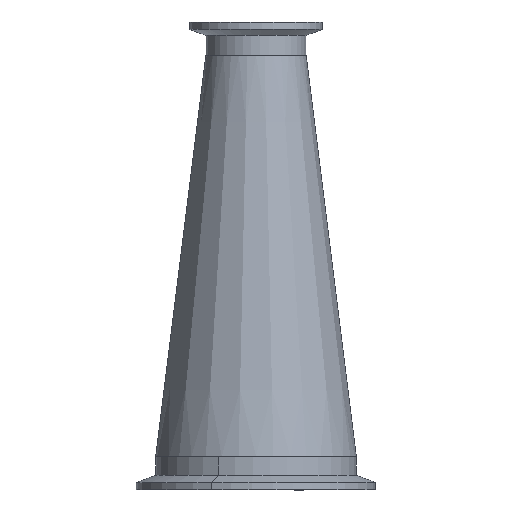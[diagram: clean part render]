
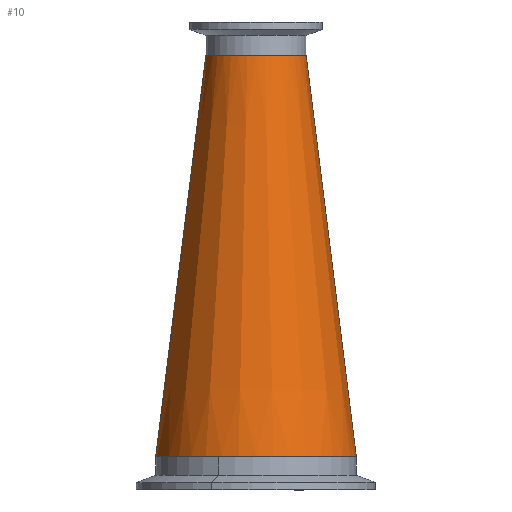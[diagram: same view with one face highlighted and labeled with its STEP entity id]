
A CAD part, front view. The second image highlights one B-rep face of the part: STEP entity #10.
In plain terms, the highlighted conical face has half-angle 7.125 degrees and reference radius 38.1 mm.
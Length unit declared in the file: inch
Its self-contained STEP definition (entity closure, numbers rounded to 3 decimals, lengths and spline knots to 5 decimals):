
#10 = ADVANCED_FACE ( 'NONE', ( #486 ), #615, .T. ) ;
#99 = DIRECTION ( 'NONE',  ( 1., 0., 0. ) ) ;
#119 = DIRECTION ( 'NONE',  ( 0., 0., -1. ) ) ;
#187 = VERTEX_POINT ( 'NONE', #896 ) ;
#199 = EDGE_CURVE ( 'NONE', #823, #187, #749, .T. ) ;
#209 = DIRECTION ( 'NONE',  ( 0., 0., 1. ) ) ;
#218 = DIRECTION ( 'NONE',  ( 0., 0., 1. ) ) ;
#232 = CARTESIAN_POINT ( 'NONE',  ( 0., 0., -6. ) ) ;
#273 = DIRECTION ( 'NONE',  ( 0.124, 0., -0.992 ) ) ;
#290 = VECTOR ( 'NONE', #273, 39.37008 ) ;
#306 = ORIENTED_EDGE ( 'NONE', *, *, #753, .F. ) ;
#355 = DIRECTION ( 'NONE',  ( -1., 0., 0. ) ) ;
#406 = EDGE_CURVE ( 'NONE', #1342, #1512, #1209, .T. ) ;
#486 = FACE_OUTER_BOUND ( 'NONE', #1196, .T. ) ;
#540 = CIRCLE ( 'NONE', #1500, 0.75 ) ;
#579 = AXIS2_PLACEMENT_3D ( 'NONE', #959, #218, #99 ) ;
#599 = CARTESIAN_POINT ( 'NONE',  ( -1.5, 0., -6. ) ) ;
#615 = CONICAL_SURFACE ( 'NONE', #1073, 1.5, 0.124 ) ;
#655 = CARTESIAN_POINT ( 'NONE',  ( 1.5, 0., -6. ) ) ;
#684 = VECTOR ( 'NONE', #1565, 39.37008 ) ;
#727 = DIRECTION ( 'NONE',  ( 1., 0., 0. ) ) ;
#749 = LINE ( 'NONE', #655, #290 ) ;
#753 = EDGE_CURVE ( 'NONE', #1342, #823, #540, .T. ) ;
#823 = VERTEX_POINT ( 'NONE', #867 ) ;
#866 = CIRCLE ( 'NONE', #579, 1.5 ) ;
#867 = CARTESIAN_POINT ( 'NONE',  ( 0.75, 0., 0. ) ) ;
#896 = CARTESIAN_POINT ( 'NONE',  ( 1.5, 0., -6. ) ) ;
#936 = EDGE_CURVE ( 'NONE', #1512, #187, #866, .T. ) ;
#959 = CARTESIAN_POINT ( 'NONE',  ( 0., 0., -6. ) ) ;
#962 = ORIENTED_EDGE ( 'NONE', *, *, #199, .F. ) ;
#1026 = ORIENTED_EDGE ( 'NONE', *, *, #936, .T. ) ;
#1073 = AXIS2_PLACEMENT_3D ( 'NONE', #232, #119, #355 ) ;
#1196 = EDGE_LOOP ( 'NONE', ( #962, #306, #1468, #1026 ) ) ;
#1209 = LINE ( 'NONE', #599, #684 ) ;
#1214 = CARTESIAN_POINT ( 'NONE',  ( 0., 0., 0. ) ) ;
#1288 = CARTESIAN_POINT ( 'NONE',  ( -1.5, 0., -6. ) ) ;
#1342 = VERTEX_POINT ( 'NONE', #1428 ) ;
#1428 = CARTESIAN_POINT ( 'NONE',  ( -0.75, 0., 0. ) ) ;
#1468 = ORIENTED_EDGE ( 'NONE', *, *, #406, .T. ) ;
#1500 = AXIS2_PLACEMENT_3D ( 'NONE', #1214, #209, #727 ) ;
#1512 = VERTEX_POINT ( 'NONE', #1288 ) ;
#1565 = DIRECTION ( 'NONE',  ( -0.124, 0., -0.992 ) ) ;
